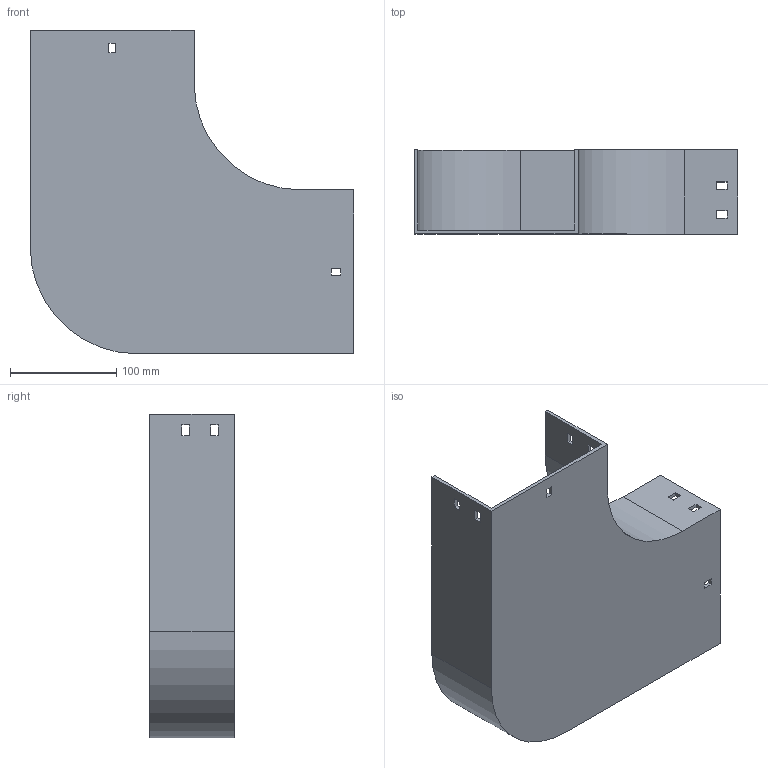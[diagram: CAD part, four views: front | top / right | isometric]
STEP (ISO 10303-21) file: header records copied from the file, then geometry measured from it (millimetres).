
FILE_DESCRIPTION (( 'STEP AP214' ), '1' );
FILE_NAME ('10B1C150.step', '2025-02-21T09:41:33', ( '' ), ( '' ), 'SwSTEP 2.0', 'SolidWorks 2023', '' );
FILE_SCHEMA (( 'AUTOMOTIVE_DESIGN' ));
Length unit declared in the file: millimetre
Products named in the file (1): 10B1C150
Bounding box: 304 x 79 x 304 mm (x, y, z)
Volume: 459592.1 mm3; surface area: 268805.6 mm2
Topology: 1 solids, 1 shells, 58 faces, 168 edges, 112 vertices
Faces by surface type: plane 54, cylinder 4
Entity records: 1943 total; most frequent: CARTESIAN_POINT 339, ORIENTED_EDGE 336, DIRECTION 294, EDGE_CURVE 168, VECTOR 160, LINE 160, VERTEX_POINT 112, EDGE_LOOP 78
